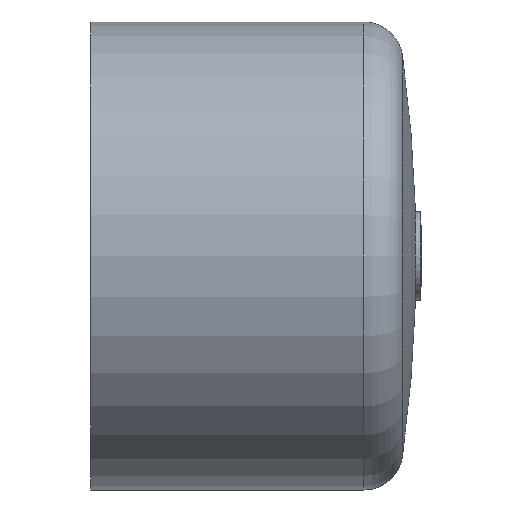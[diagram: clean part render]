
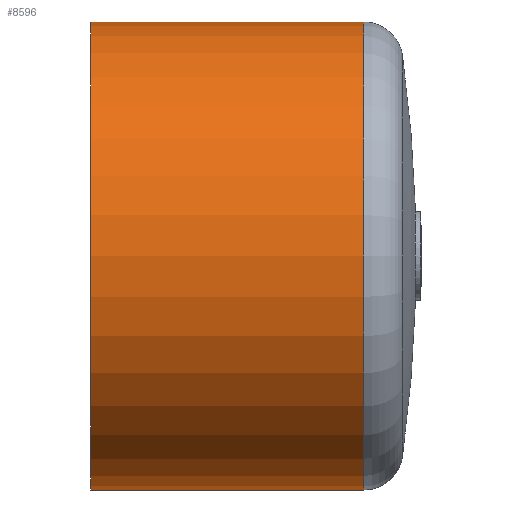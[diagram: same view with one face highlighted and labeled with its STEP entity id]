
A CAD part, front view. The second image highlights one B-rep face of the part: STEP entity #8596.
In plain terms, the highlighted cylindrical face has radius 90 mm (diameter 180 mm), a full revolution.
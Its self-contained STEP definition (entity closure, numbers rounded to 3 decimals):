
#69=CYLINDRICAL_SURFACE('',#9388,90.);
#4179=ORIENTED_EDGE('',*,*,#5523,.T.);
#4180=ORIENTED_EDGE('',*,*,#5526,.T.);
#5523=EDGE_CURVE('',#6306,#6306,#6800,.T.);
#5526=EDGE_CURVE('',#6309,#6309,#6803,.T.);
#6306=VERTEX_POINT('',#21548);
#6309=VERTEX_POINT('',#21556);
#6800=CIRCLE('',#9382,90.);
#6803=CIRCLE('',#9387,90.);
#7388=EDGE_LOOP('',(#4179));
#7389=EDGE_LOOP('',(#4180));
#7979=FACE_BOUND('',#7388,.T.);
#7980=FACE_BOUND('',#7389,.T.);
#8596=ADVANCED_FACE('',(#7979,#7980),#69,.T.);
#9382=AXIS2_PLACEMENT_3D('',#21547,#11030,#11031);
#9387=AXIS2_PLACEMENT_3D('',#21555,#11040,#11041);
#9388=AXIS2_PLACEMENT_3D('',#21557,#11042,#11043);
#11030=DIRECTION('',(1.,0.,0.));
#11031=DIRECTION('',(0.,-1.,0.));
#11040=DIRECTION('',(-1.,0.,0.));
#11041=DIRECTION('',(0.,0.,1.));
#11042=DIRECTION('',(-1.,0.,0.));
#11043=DIRECTION('',(0.,0.,1.));
#21547=CARTESIAN_POINT('',(8.,0.,0.));
#21548=CARTESIAN_POINT('',(8.,-90.,0.));
#21555=CARTESIAN_POINT('',(113.,0.,0.));
#21556=CARTESIAN_POINT('',(113.,0.,90.));
#21557=CARTESIAN_POINT('',(60.,0.,0.));
